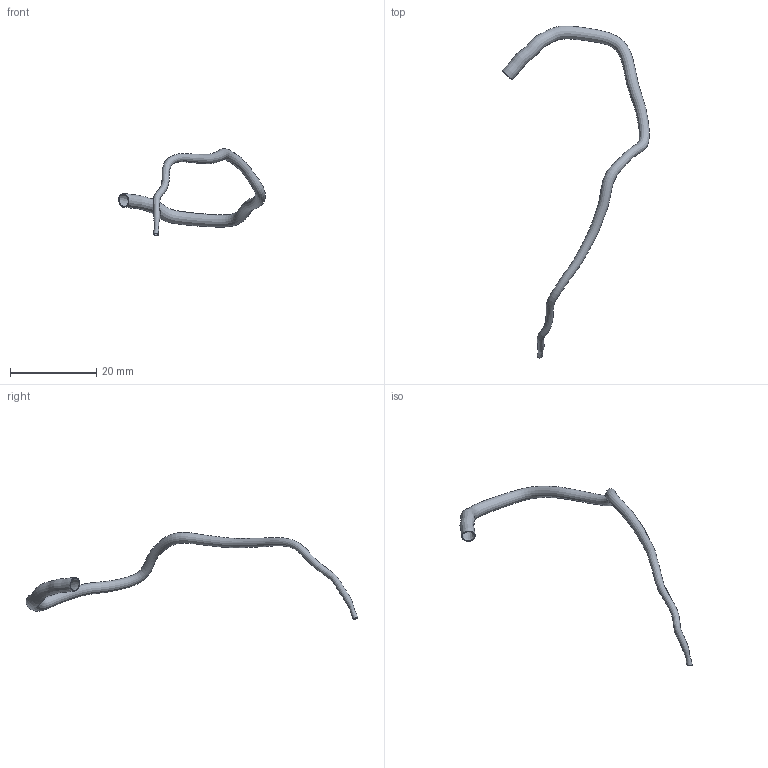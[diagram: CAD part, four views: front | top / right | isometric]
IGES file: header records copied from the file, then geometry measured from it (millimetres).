
Global section: file name: C:\Documents and Settings\Administrator\Desktop\FDA-Pig\Domestic RCA\Pig_000003\rca.seg.ed.igs; native system: Rhinoceros ( May 19 2006 ); preprocessor: Trout Lake IGES 012 May 19 2006; date: 111205.184849; units: centimetre
Bounding box: 34.01 x 76.9 x 20.16 mm (x, y, z)
Surface area: 1750.6 mm2 (no closed solid volume)
Topology: 0 solids, 0 shells, 4 faces, 13 edges, 10 vertices
Faces by surface type: bspline 4
